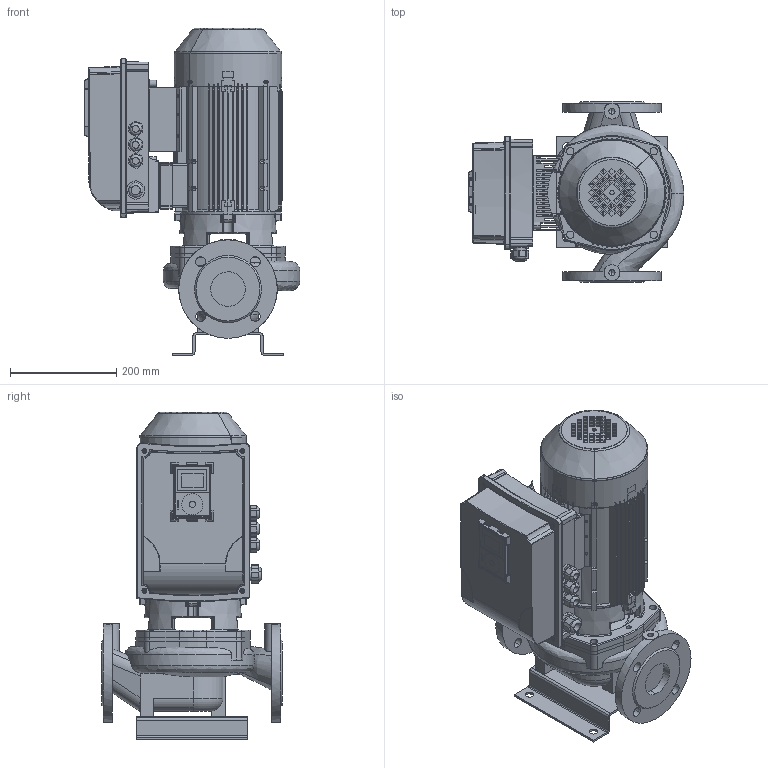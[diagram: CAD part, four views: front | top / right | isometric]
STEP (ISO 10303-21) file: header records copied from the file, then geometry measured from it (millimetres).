
FILE_DESCRIPTION(('STEP AP214'),'1');
FILE_NAME('export.stp','2018-06-01T14:01:51',(' '),(' '),'Spatial InterOp 3D',' ',' ');
FILE_SCHEMA(('AUTOMOTIVE_DESIGN { 1 0 10303 214 1 1 1 1 }'));
Length unit declared in the file: millimetre
Products named in the file (24): 160027; 160005; V_MKP100-2-F19_VS; 160060___; 160059___; 160136; Vacon_MS2; G43699; Vacon20CP_MS2; MS2_bottom_final; P101407; MS2_cover_final; Vacon_Display; CAD-3D-VACON-M100-Display.sldasm; Vacon_display_pla; Vacon_display_scr; DIN_966-M5x10; M20_tiivisteholkk; M25_tiivisteholkk; SOVITUSPALA; W_L65B2300_KPVS; V_TLL65AB80A1102; V_PPL65AB; V_JALKA35973
Assembly tree (28 placements, depth 6):
  W_L65B2300_KPVS
    V_MKP100-2-F19_VS
      160027
        160005
      160060___
      160059___
      160136
      Vacon_MS2
        G43699
        Vacon20CP_MS2
          MS2_bottom_final
          P101407
          MS2_cover_final
          Vacon_Display
            CAD-3D-VACON-M100-Display.sldasm
            Vacon_display_pla
            Vacon_display_scr
          DIN_966-M5x10  x4
          M20_tiivisteholkk  x3
          M25_tiivisteholkk
      SOVITUSPALA
    V_TLL65AB80A1102
    V_PPL65AB
    V_JALKA35973
Bounding box: 405.31 x 340 x 615 mm (x, y, z)
Volume: 8543212.8 mm3; surface area: 2341179.9 mm2
Topology: 22 solids, 1496 shells, 4996 faces, 17126 edges, 13611 vertices
Faces by surface type: bspline 1785, plane 1387, cylinder 1098, torus 408, cone 264, sphere 54
Entity records: 234326 total; most frequent: CARTESIAN_POINT 97411, ORIENTED_EDGE 25344, DIRECTION 16761, EDGE_CURVE 16496, VERTEX_POINT 13293, B_SPLINE_CURVE_WITH_KNOTS 7804, AXIS2_PLACEMENT_3D 6377, EDGE_LOOP 5254
